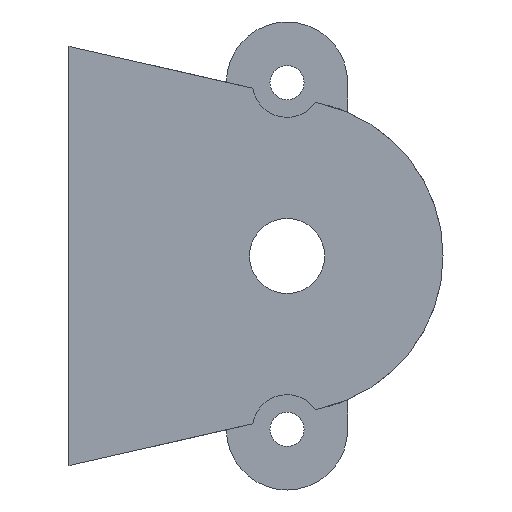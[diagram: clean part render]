
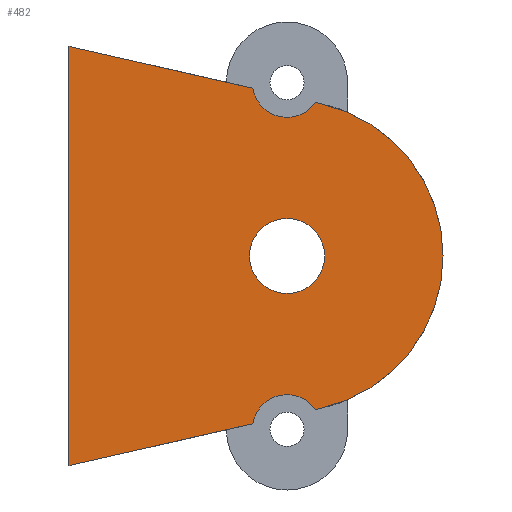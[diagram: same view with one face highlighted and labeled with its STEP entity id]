
A CAD part, front view. The second image highlights one B-rep face of the part: STEP entity #482.
In plain terms, the highlighted planar face has unit normal (0, -1, 0).
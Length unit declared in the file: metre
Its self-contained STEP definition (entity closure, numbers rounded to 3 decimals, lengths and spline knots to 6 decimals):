
#18=CIRCLE('',#518,0.02286);
#25=CIRCLE('',#536,0.0055);
#26=CIRCLE('',#537,0.00508);
#27=CIRCLE('',#538,0.00508);
#122=ORIENTED_EDGE('',*,*,#228,.F.);
#123=ORIENTED_EDGE('',*,*,#174,.F.);
#124=ORIENTED_EDGE('',*,*,#229,.T.);
#125=ORIENTED_EDGE('',*,*,#182,.F.);
#126=ORIENTED_EDGE('',*,*,#211,.F.);
#127=ORIENTED_EDGE('',*,*,#208,.T.);
#128=ORIENTED_EDGE('',*,*,#206,.F.);
#129=ORIENTED_EDGE('',*,*,#184,.F.);
#130=ORIENTED_EDGE('',*,*,#230,.T.);
#131=ORIENTED_EDGE('',*,*,#192,.F.);
#132=ORIENTED_EDGE('',*,*,#201,.F.);
#174=EDGE_CURVE('',#239,#241,#284,.T.);
#182=EDGE_CURVE('',#248,#244,#292,.T.);
#184=EDGE_CURVE('',#249,#251,#294,.T.);
#192=EDGE_CURVE('',#258,#256,#302,.T.);
#201=EDGE_CURVE('',#241,#258,#18,.F.);
#206=EDGE_CURVE('',#251,#269,#308,.T.);
#208=EDGE_CURVE('',#270,#269,#310,.T.);
#211=EDGE_CURVE('',#270,#248,#313,.T.);
#228=EDGE_CURVE('',#280,#280,#25,.T.);
#229=EDGE_CURVE('',#239,#244,#26,.F.);
#230=EDGE_CURVE('',#249,#256,#27,.F.);
#239=VERTEX_POINT('',#697);
#241=VERTEX_POINT('',#700);
#244=VERTEX_POINT('',#707);
#248=VERTEX_POINT('',#715);
#249=VERTEX_POINT('',#719);
#251=VERTEX_POINT('',#722);
#256=VERTEX_POINT('',#733);
#258=VERTEX_POINT('',#737);
#269=VERTEX_POINT('',#768);
#270=VERTEX_POINT('',#772);
#280=VERTEX_POINT('',#810);
#284=LINE('',#699,#330);
#292=LINE('',#716,#338);
#294=LINE('',#721,#340);
#302=LINE('',#738,#348);
#308=LINE('',#767,#354);
#310=LINE('',#771,#356);
#313=LINE('',#777,#359);
#330=VECTOR('',#557,1.);
#338=VECTOR('',#567,1.);
#340=VECTOR('',#571,1.);
#348=VECTOR('',#581,1.);
#354=VECTOR('',#613,1.);
#356=VECTOR('',#617,1.);
#359=VECTOR('',#622,1.);
#397=EDGE_LOOP('',(#122));
#398=EDGE_LOOP('',(#123,#124,#125,#126,#127,#128,#129,#130,#131,#132));
#433=FACE_BOUND('',#397,.T.);
#434=FACE_BOUND('',#398,.T.);
#460=PLANE('',#535);
#482=ADVANCED_FACE('',(#433,#434),#460,.T.);
#518=AXIS2_PLACEMENT_3D('',#758,#602,#603);
#535=AXIS2_PLACEMENT_3D('',#808,#656,#657);
#536=AXIS2_PLACEMENT_3D('',#809,#658,#659);
#537=AXIS2_PLACEMENT_3D('',#811,#660,#661);
#538=AXIS2_PLACEMENT_3D('',#812,#662,#663);
#557=DIRECTION('',(0.975,0.,-0.222));
#567=DIRECTION('',(0.975,0.,-0.222));
#571=DIRECTION('',(-0.975,0.,-0.222));
#581=DIRECTION('',(-0.975,0.,-0.222));
#602=DIRECTION('',(0.,-1.,0.));
#603=DIRECTION('',(0.,0.,-1.));
#613=DIRECTION('',(-0.975,0.,-0.222));
#617=DIRECTION('',(0.,0.,-1.));
#622=DIRECTION('',(0.975,0.,-0.222));
#656=DIRECTION('',(0.,-1.,0.));
#657=DIRECTION('',(0.,0.,-1.));
#658=DIRECTION('',(0.,-1.,0.));
#659=DIRECTION('',(0.,0.,-1.));
#660=DIRECTION('',(0.,-1.,0.));
#661=DIRECTION('',(0.,0.,-1.));
#662=DIRECTION('',(0.,-1.,0.));
#663=DIRECTION('',(0.,0.,-1.));
#697=CARTESIAN_POINT('',(0.118628,-0.032385,0.022496));
#699=CARTESIAN_POINT('',(0.119533,-0.032385,0.02229));
#700=CARTESIAN_POINT('',(0.119533,-0.032385,0.02229));
#707=CARTESIAN_POINT('',(0.109446,-0.032385,0.024586));
#715=CARTESIAN_POINT('',(0.083628,-0.032385,0.030462));
#716=CARTESIAN_POINT('',(0.119533,-0.032385,0.02229));
#719=CARTESIAN_POINT('',(0.109446,-0.032385,-0.024586));
#721=CARTESIAN_POINT('',(0.119533,-0.032385,-0.02229));
#722=CARTESIAN_POINT('',(0.083628,-0.032385,-0.030462));
#733=CARTESIAN_POINT('',(0.118628,-0.032385,-0.022496));
#737=CARTESIAN_POINT('',(0.119533,-0.032385,-0.02229));
#738=CARTESIAN_POINT('',(0.119533,-0.032385,-0.02229));
#758=CARTESIAN_POINT('',(0.11446,-0.032385,0.));
#767=CARTESIAN_POINT('',(0.119533,-0.032385,-0.02229));
#768=CARTESIAN_POINT('',(0.0825,-0.032385,-0.030718));
#771=CARTESIAN_POINT('',(0.0825,-0.032385,0.));
#772=CARTESIAN_POINT('',(0.0825,-0.032385,0.030718));
#777=CARTESIAN_POINT('',(0.119533,-0.032385,0.02229));
#808=CARTESIAN_POINT('',(0.11446,-0.032385,0.));
#809=CARTESIAN_POINT('',(0.11446,-0.032385,0.));
#810=CARTESIAN_POINT('',(0.11446,-0.032385,-0.0055));
#811=CARTESIAN_POINT('',(0.11446,-0.032385,0.0254));
#812=CARTESIAN_POINT('',(0.11446,-0.032385,-0.0254));
